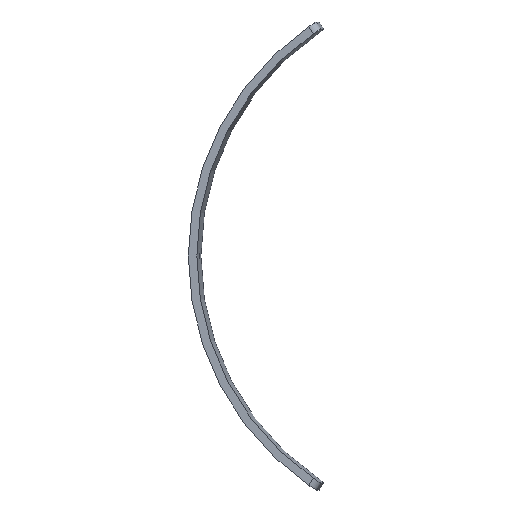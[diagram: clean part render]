
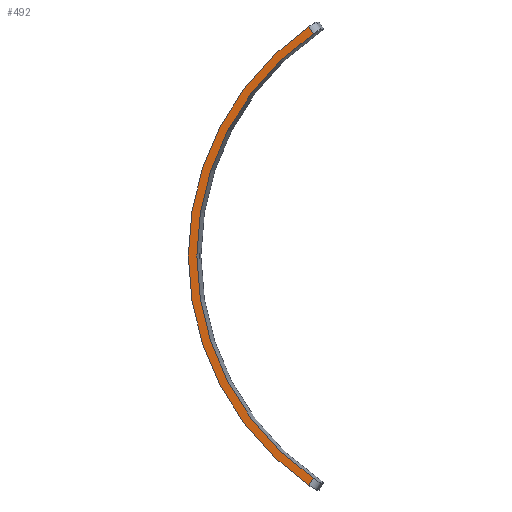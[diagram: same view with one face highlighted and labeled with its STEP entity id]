
A CAD part, front view. The second image highlights one B-rep face of the part: STEP entity #492.
In plain terms, the highlighted planar face has unit normal (-0.079, -0.997, 0).
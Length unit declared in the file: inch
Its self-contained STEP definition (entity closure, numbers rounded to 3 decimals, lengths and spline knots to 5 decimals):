
#38 = CIRCLE ( 'NONE', #52, 31.45 ) ;
#49 = CARTESIAN_POINT ( 'NONE',  ( 101.24253, -10.97724, 25.90163 ) ) ;
#52 = AXIS2_PLACEMENT_3D ( 'NONE', #92, #507, #95 ) ;
#55 = DIRECTION ( 'NONE',  ( 0.078, 0.997, 0. ) ) ;
#70 = ORIENTED_EDGE ( 'NONE', *, *, #508, .T. ) ;
#77 = DIRECTION ( 'NONE',  ( 0.539, -0.042, 0.841 ) ) ;
#92 = CARTESIAN_POINT ( 'NONE',  ( 119.02592, -12.37682, 0. ) ) ;
#95 = DIRECTION ( 'NONE',  ( 0.997, -0.078, 0. ) ) ;
#173 = LINE ( 'NONE', #349, #573 ) ;
#178 = ORIENTED_EDGE ( 'NONE', *, *, #248, .F. ) ;
#226 = DIRECTION ( 'NONE',  ( -0.997, 0.078, 0. ) ) ;
#241 = ORIENTED_EDGE ( 'NONE', *, *, #698, .T. ) ;
#248 = EDGE_CURVE ( 'NONE', #469, #540, #38, .T. ) ;
#249 = CIRCLE ( 'NONE', #602, 32.45 ) ;
#291 = CARTESIAN_POINT ( 'NONE',  ( 100.70321, -10.93479, 26.74324 ) ) ;
#299 = DIRECTION ( 'NONE',  ( 0.997, -0.078, 0. ) ) ;
#335 = VECTOR ( 'NONE', #77, 39.37008 ) ;
#349 = CARTESIAN_POINT ( 'NONE',  ( 118.18732, -12.31082, -0.54072 ) ) ;
#363 = ORIENTED_EDGE ( 'NONE', *, *, #701, .T. ) ;
#389 = EDGE_LOOP ( 'NONE', ( #363, #241, #178, #70 ) ) ;
#397 = PLANE ( 'NONE',  #455 ) ;
#401 = DIRECTION ( 'NONE',  ( -0.539, 0.042, 0.841 ) ) ;
#404 = CARTESIAN_POINT ( 'NONE',  ( 119.02592, -12.37682, 0. ) ) ;
#416 = LINE ( 'NONE', #538, #335 ) ;
#455 = AXIS2_PLACEMENT_3D ( 'NONE', #752, #55, #226 ) ;
#464 = CARTESIAN_POINT ( 'NONE',  ( 100.70321, -10.93479, -26.74324 ) ) ;
#469 = VERTEX_POINT ( 'NONE', #49 ) ;
#492 = ADVANCED_FACE ( 'NONE', ( #521 ), #397, .F. ) ;
#507 = DIRECTION ( 'NONE',  ( -0.078, -0.997, 0. ) ) ;
#508 = EDGE_CURVE ( 'NONE', #469, #645, #173, .T. ) ;
#521 = FACE_OUTER_BOUND ( 'NONE', #389, .T. ) ;
#528 = VERTEX_POINT ( 'NONE', #464 ) ;
#538 = CARTESIAN_POINT ( 'NONE',  ( 118.18732, -12.31082, 0.54072 ) ) ;
#540 = VERTEX_POINT ( 'NONE', #746 ) ;
#573 = VECTOR ( 'NONE', #401, 39.37008 ) ;
#584 = DIRECTION ( 'NONE',  ( -0.078, -0.997, 0. ) ) ;
#602 = AXIS2_PLACEMENT_3D ( 'NONE', #404, #584, #299 ) ;
#645 = VERTEX_POINT ( 'NONE', #291 ) ;
#698 = EDGE_CURVE ( 'NONE', #528, #540, #416, .T. ) ;
#701 = EDGE_CURVE ( 'NONE', #645, #528, #249, .T. ) ;
#746 = CARTESIAN_POINT ( 'NONE',  ( 101.24253, -10.97724, -25.90163 ) ) ;
#752 = CARTESIAN_POINT ( 'NONE',  ( 119.02592, -12.37682, 0. ) ) ;
